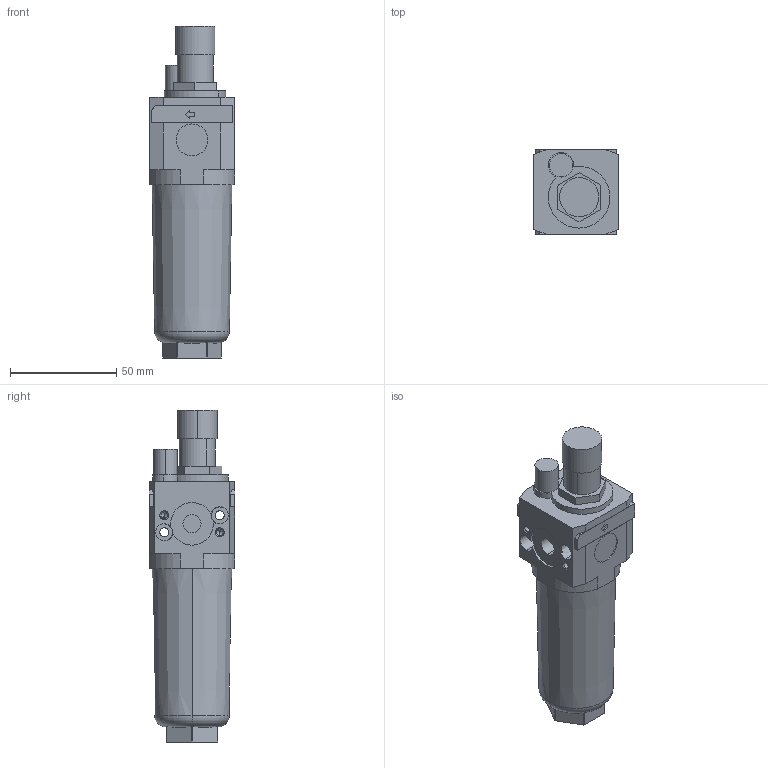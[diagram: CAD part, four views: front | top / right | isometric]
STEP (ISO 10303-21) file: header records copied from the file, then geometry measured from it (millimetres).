
FILE_DESCRIPTION((''),'2;1');
FILE_NAME('I:\DOC-EDP\Lib-3d\FRL\17103A_P.stp','2003-06-16T14:47:55',('maffial1'),(''),'Autodesk Inventor 7','Autodesk Inventor 7','');
FILE_SCHEMA(('AUTOMOTIVE_DESIGN { 1 0 10303 214 1 1 1 1 }'));
Length unit declared in the file: millimetre
Products named in the file (1): 17103A_P
Bounding box: 40 x 40 x 156 mm (x, y, z)
Volume: 148691.7 mm3; surface area: 25955.6 mm2
Topology: 1 solids, 3 shells, 165 faces, 408 edges, 260 vertices
Faces by surface type: plane 60, bspline 53, cylinder 40, cone 10, torus 2
Entity records: 5245 total; most frequent: CARTESIAN_POINT 1409, ORIENTED_EDGE 800, DIRECTION 754, EDGE_CURVE 400, VERTEX_POINT 260, VECTOR 260, LINE 260, AXIS2_PLACEMENT_3D 247
